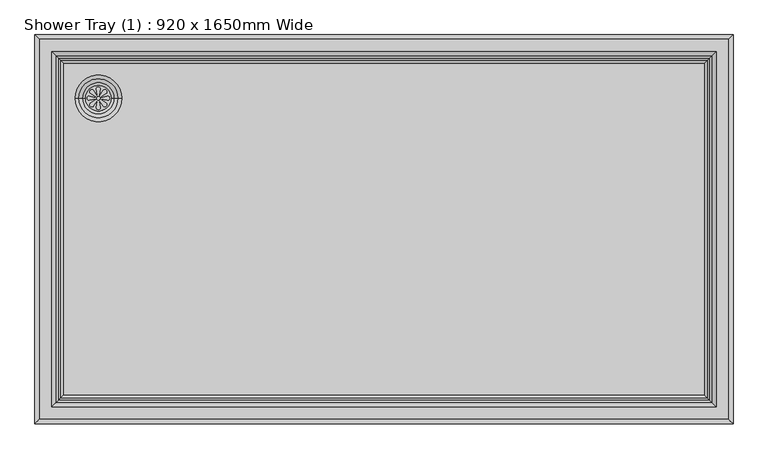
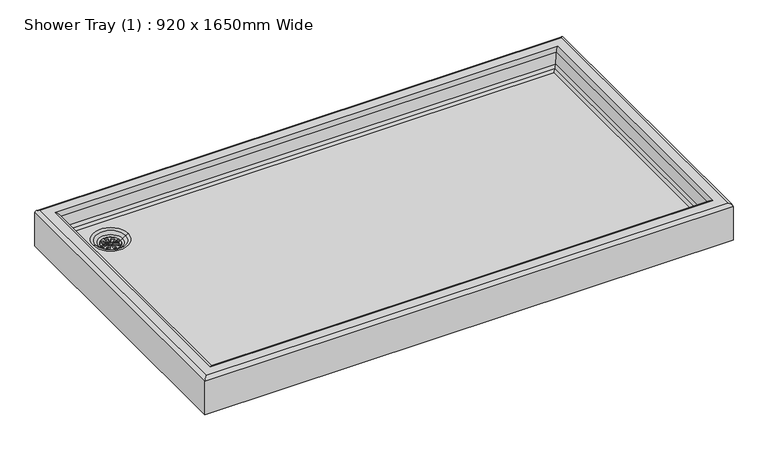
"""IFC4 building model written with IfcOpenShell, lengths in millimetres: flow terminal geometry, Shower Tray (1) : 920 x 1650mm Wide."""

from ifc_helpers import new_model, si_unit, point, frame, frame_2d, origin, place, context, project, spatial, polyline, circle_curve, ellipse_curve, trimmed, segment, composite_curve, outline, extrude, source, transform, mapped, element, save
from ifc_brep_helpers import plane_surface, cylinder_surface, revolved_surface, advanced_brep


def shower_tray_1_920_x_1650mm_wide_d7a5ca5a(model_context):
    return source(origin(), model_context, "Body", "SolidModel", [
        extrude(outline(composite_curve([segment(trimmed(circle_curve(frame_2d((-675.0, 310.0)), 30.0), [point((-705.0, 310.0))], [point((-645.0, 310.0))], False, "CARTESIAN"), True, "CONTINUOUS"), segment(trimmed(circle_curve(frame_2d((-675.0, 310.0)), 30.0), [point((-645.0, 310.0))], [point((-705.0, 310.0))], False, "CARTESIAN"), True, "CONTINUOUS")], self_intersect=False), holes=[composite_curve([segment(polyline([(-673.0437984, 317.2242832), (-670.0173347, 331.5301417)]), True, "CONTINUOUS"), segment(trimmed(circle_curve(frame_2d((-675.0, 331.5301417)), 4.9826653), [point((-670.0173347, 331.5301417))], [point((-679.9826653, 331.5301417))], True, "CARTESIAN"), True, "CONTINUOUS"), segment(polyline([(-679.9826653, 331.5301417), (-677.1435586, 317.2242832)]), True, "CONTINUOUS"), segment(trimmed(circle_curve(frame_2d((-675.0936785, 317.2242832)), 2.0498801), [point((-677.1435586, 317.2242832))], [point((-673.0437984, 317.2242832))], True, "CARTESIAN"), True, "CONTINUOUS")], self_intersect=False), composite_curve([segment(trimmed(circle_curve(frame_2d((-675.0936785, 302.7757168)), 2.0498801), [point((-673.0437984, 302.7757168))], [point((-677.1435586, 302.7757168))], True, "CARTESIAN"), True, "CONTINUOUS"), segment(polyline([(-677.1435586, 302.7757168), (-679.9826653, 288.4698583)]), True, "CONTINUOUS"), segment(trimmed(circle_curve(frame_2d((-675.0, 288.4698583)), 4.9826653), [point((-679.9826653, 288.4698583))], [point((-670.0173347, 288.4698583))], True, "CARTESIAN"), True, "CONTINUOUS"), segment(polyline([(-670.0173347, 288.4698583), (-673.0437984, 302.7757168)]), True, "CONTINUOUS")], self_intersect=False), composite_curve([segment(polyline([(-682.2242832, 311.9562016), (-696.5301417, 314.9826653)]), True, "CONTINUOUS"), segment(trimmed(circle_curve(frame_2d((-696.5301417, 310.0)), 4.9826653), [point((-696.5301417, 314.9826653))], [point((-696.5301417, 305.0173347))], True, "CARTESIAN"), True, "CONTINUOUS"), segment(polyline([(-696.5301417, 305.0173347), (-682.2242832, 307.8564414)]), True, "CONTINUOUS"), segment(trimmed(circle_curve(frame_2d((-682.2242832, 309.9063215)), 2.0498801), [point((-682.2242832, 307.8564414))], [point((-682.2242832, 311.9562016))], True, "CARTESIAN"), True, "CONTINUOUS")], self_intersect=False), composite_curve([segment(trimmed(circle_curve(frame_2d((-667.7757168, 309.9063215)), 2.0498801), [point((-667.7757168, 311.9562016))], [point((-667.7757168, 307.8564414))], True, "CARTESIAN"), True, "CONTINUOUS"), segment(polyline([(-667.7757168, 307.8564414), (-653.4698583, 305.0173347)]), True, "CONTINUOUS"), segment(trimmed(circle_curve(frame_2d((-653.4698583, 310.0)), 4.9826653), [point((-653.4698583, 305.0173347))], [point((-653.4698583, 314.9826653))], True, "CARTESIAN"), True, "CONTINUOUS"), segment(polyline([(-653.4698583, 314.9826653), (-667.7757168, 311.9562016)]), True, "CONTINUOUS")], self_intersect=False), composite_curve([segment(polyline([(-678.7250963, 316.4915831), (-686.7008327, 328.7473856)]), True, "CONTINUOUS"), segment(trimmed(circle_curve(frame_2d((-690.2241092, 325.2241092)), 4.9826653), [point((-686.7008327, 328.7473856))], [point((-693.7473856, 321.7008327))], True, "CARTESIAN"), True, "CONTINUOUS"), segment(polyline([(-693.7473856, 321.7008327), (-681.6240645, 313.5926149)]), True, "CONTINUOUS"), segment(trimmed(circle_curve(frame_2d((-680.1745804, 315.042099)), 2.0498801), [point((-681.6240645, 313.5926149))], [point((-678.7250963, 316.4915831))], True, "CARTESIAN"), True, "CONTINUOUS")], self_intersect=False), composite_curve([segment(trimmed(circle_curve(frame_2d((-669.957901, 304.8254196)), 2.0498801), [point((-668.5084169, 306.2749037))], [point((-671.4073851, 303.3759355))], True, "CARTESIAN"), True, "CONTINUOUS"), segment(polyline([(-671.4073851, 303.3759355), (-663.2991673, 291.2526144)]), True, "CONTINUOUS"), segment(trimmed(circle_curve(frame_2d((-659.7758908, 294.7758908)), 4.9826653), [point((-663.2991673, 291.2526144))], [point((-656.2526144, 298.2991673))], True, "CARTESIAN"), True, "CONTINUOUS"), segment(polyline([(-656.2526144, 298.2991673), (-668.5084169, 306.2749037)]), True, "CONTINUOUS")], self_intersect=False), composite_curve([segment(polyline([(-681.4915831, 306.2749037), (-693.7473856, 298.2991673)]), True, "CONTINUOUS"), segment(trimmed(circle_curve(frame_2d((-690.2241092, 294.7758908)), 4.9826653), [point((-693.7473856, 298.2991673))], [point((-686.7008327, 291.2526144))], True, "CARTESIAN"), True, "CONTINUOUS"), segment(polyline([(-686.7008327, 291.2526144), (-678.5926149, 303.3759355)]), True, "CONTINUOUS"), segment(trimmed(circle_curve(frame_2d((-680.042099, 304.8254196)), 2.0498801), [point((-678.5926149, 303.3759355))], [point((-681.4915831, 306.2749037))], True, "CARTESIAN"), True, "CONTINUOUS")], self_intersect=False), composite_curve([segment(trimmed(circle_curve(frame_2d((-669.8254196, 315.042099)), 2.0498801), [point((-671.2749037, 316.4915831))], [point((-668.3759355, 313.5926149))], True, "CARTESIAN"), True, "CONTINUOUS"), segment(polyline([(-668.3759355, 313.5926149), (-656.2526144, 321.7008327)]), True, "CONTINUOUS"), segment(trimmed(circle_curve(frame_2d((-659.7758908, 325.2241092)), 4.9826653), [point((-656.2526144, 321.7008327))], [point((-663.2991673, 328.7473856))], True, "CARTESIAN"), True, "CONTINUOUS"), segment(polyline([(-663.2991673, 328.7473856), (-671.2749037, 316.4915831)]), True, "CONTINUOUS")], self_intersect=False)]), frame((0.0, 0.0, 43.429774), z_axis=(0.0, 0.0, 1.0), x_axis=(1.0, 0.0, 0.0)), (0.0, 0.0, 1.0), 3.0),
        advanced_brep(
        [(825.0, 460.0, 0.0), (825.0, 460.0, 110.0), (825.0, -460.0, 110.0), (825.0, -460.0, 0.0), (763.5950747, 398.5950747, 66.1486916), (757.446383, 392.446383, 60.0), (757.446383, -392.446383, 60.0), (763.5950747, -398.5950747, 66.1486916), (769.1490941, -404.1490941, 76.8178637), (769.1490941, 404.1490941, 76.8178637), (775.0, -410.0, 110.0), (775.0, 410.0, 110.0), (785.0, -420.0, 120.0), (785.0, 420.0, 120.0), (815.0, 450.0, 120.0), (815.0, -450.0, 120.0), (-825.0, -460.0, 110.0), (-825.0, -460.0, 0.0), (-757.446383, -392.446383, 60.0), (-763.5950747, -398.5950747, 66.1486916), (-769.1490941, -404.1490941, 76.8178637), (-775.0, -410.0, 110.0), (-785.0, -420.0, 120.0), (-815.0, -450.0, 120.0), (-825.0, 460.0, 110.0), (-825.0, 460.0, 0.0), (-757.446383, 392.446383, 60.0), (-763.5950747, 398.5950747, 66.1486916), (-769.1490941, 404.1490941, 76.8178637), (-775.0, 410.0, 110.0), (-785.0, 420.0, 120.0), (-815.0, 450.0, 120.0), (-705.0, 310.0, 0.0), (-645.0, 310.0, 0.0), (-730.0, 310.0, 60.0), (-620.0, 310.0, 60.0), (-645.0, 310.0, 46.429774), (-705.0, 310.0, 46.429774), (-638.3333333, 310.0, 50.0), (-711.6666667, 310.0, 50.0), (-629.0, 310.0, 57.0), (-721.0, 310.0, 57.0)],
        [
            (0, 1),
            (1, 2),
            (2, 3),
            (3, 0),
            (4, 5),
            (5, 6),
            (6, 7),
            (7, 4),
            (7, 8, ellipse_curve(frame((749.452939, -384.452939, 80.2908273), z_axis=(-0.7071067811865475, -0.7071067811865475, 0.0), x_axis=(0.7071067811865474, -0.7071067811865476, 0.0)), 28.2842712, 20.0)),
            (8, 9),
            (9, 4, ellipse_curve(frame((749.452939, 384.452939, 80.2908273), z_axis=(-0.7071067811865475, 0.7071067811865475, 0.0), x_axis=(-0.7071067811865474, -0.7071067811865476, 0.0)), 28.2842712, 20.0)),
            (8, 10),
            (10, 11),
            (11, 9),
            (10, 12, ellipse_curve(frame((785.0, -420.0, 110.0), z_axis=(0.7071067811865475, 0.7071067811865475, 0.0), x_axis=(-0.7071067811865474, 0.7071067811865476, 0.0)), 14.1421356, 10.0)),
            (12, 13),
            (13, 11, ellipse_curve(frame((785.0, 420.0, 110.0), z_axis=(0.7071067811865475, -0.7071067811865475, 0.0), x_axis=(0.7071067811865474, 0.7071067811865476, 0.0)), 14.1421356, 10.0)),
            (1, 14, ellipse_curve(frame((815.0, 450.0, 110.0), z_axis=(0.7071067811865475, -0.7071067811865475, 0.0), x_axis=(0.7071067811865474, 0.7071067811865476, 0.0)), 14.1421356, 10.0)),
            (14, 15),
            (15, 2, ellipse_curve(frame((815.0, -450.0, 110.0), z_axis=(0.7071067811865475, 0.7071067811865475, 0.0), x_axis=(-0.7071067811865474, 0.7071067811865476, 0.0)), 14.1421356, 10.0)),
            (2, 16),
            (16, 17),
            (17, 3),
            (6, 18),
            (18, 19),
            (19, 7),
            (19, 20, ellipse_curve(frame((-749.452939, -384.452939, 80.2908273), z_axis=(-0.7071067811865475, 0.7071067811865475, 0.0), x_axis=(-0.7071067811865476, -0.7071067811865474, 0.0)), 28.2842712, 20.0)),
            (20, 8),
            (20, 21),
            (21, 10),
            (21, 22, ellipse_curve(frame((-785.0, -420.0, 110.0), z_axis=(0.7071067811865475, -0.7071067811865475, 0.0), x_axis=(0.7071067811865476, 0.7071067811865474, 0.0)), 14.1421356, 10.0)),
            (22, 12),
            (15, 23),
            (23, 16, ellipse_curve(frame((-815.0, -450.0, 110.0), z_axis=(0.7071067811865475, -0.7071067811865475, 0.0), x_axis=(0.7071067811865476, 0.7071067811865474, 0.0)), 14.1421356, 10.0)),
            (16, 24),
            (24, 25),
            (25, 17),
            (18, 26),
            (26, 27),
            (27, 19),
            (27, 28, ellipse_curve(frame((-749.452939, 384.452939, 80.2908273), z_axis=(0.7071067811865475, 0.7071067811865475, 0.0), x_axis=(-0.7071067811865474, 0.7071067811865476, 0.0)), 28.2842712, 20.0)),
            (28, 20),
            (28, 29),
            (29, 21),
            (29, 30, ellipse_curve(frame((-785.0, 420.0, 110.0), z_axis=(-0.7071067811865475, -0.7071067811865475, 0.0), x_axis=(0.7071067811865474, -0.7071067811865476, 0.0)), 14.1421356, 10.0)),
            (30, 22),
            (23, 31),
            (31, 24, ellipse_curve(frame((-815.0, 450.0, 110.0), z_axis=(-0.7071067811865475, -0.7071067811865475, 0.0), x_axis=(0.7071067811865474, -0.7071067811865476, 0.0)), 14.1421356, 10.0)),
            (0, 25),
            (24, 1),
            (32, 33, circle_curve(frame((-675.0, 310.0, 0.0), z_axis=(0.0, 0.0, 1.0), x_axis=(1.0, 0.0, 0.0)), 30.0)),
            (33, 32, circle_curve(frame((-675.0, 310.0, 0.0), z_axis=(0.0, 0.0, 1.0), x_axis=(1.0, 0.0, 0.0)), 30.0)),
            (4, 27),
            (26, 5),
            (9, 28),
            (11, 29),
            (13, 30),
            (14, 31),
            (34, 35, circle_curve(frame((-675.0, 310.0, 60.0), z_axis=(0.0, 0.0, -1.0), x_axis=(1.0, 0.0, 0.0)), 55.0)),
            (35, 34, circle_curve(frame((-675.0, 310.0, 60.0), z_axis=(0.0, 0.0, -1.0), x_axis=(1.0, 0.0, 0.0)), 55.0)),
            (33, 36),
            (36, 37, circle_curve(frame((-675.0, 310.0, 46.429774), z_axis=(0.0, 0.0, 1.0), x_axis=(1.0, 0.0, 0.0)), 30.0)),
            (37, 32),
            (37, 36, circle_curve(frame((-675.0, 310.0, 46.429774), z_axis=(0.0, 0.0, 1.0), x_axis=(1.0, 0.0, 0.0)), 30.0)),
            (38, 39, circle_curve(frame((-675.0, 310.0, 50.0), z_axis=(0.0, 0.0, 1.0), x_axis=(1.0, 0.0, 0.0)), 36.6666667)),
            (39, 37, circle_curve(frame((-696.6666667, 310.0, 70.0), z_axis=(0.0, -1.0, 0.0), x_axis=(-1.0, 0.0, 0.0)), 25.0)),
            (36, 38, circle_curve(frame((-653.3333333, 310.0, 70.0), z_axis=(0.0, -1.0, 0.0), x_axis=(1.0, 0.0, 0.0)), 25.0)),
            (39, 38, circle_curve(frame((-675.0, 310.0, 50.0), z_axis=(0.0, 0.0, 1.0), x_axis=(1.0, 0.0, 0.0)), 36.6666667)),
            (38, 40),
            (40, 41, circle_curve(frame((-675.0, 310.0, 57.0), z_axis=(0.0, 0.0, 1.0), x_axis=(1.0, 0.0, 0.0)), 46.0)),
            (41, 39),
            (41, 40, circle_curve(frame((-675.0, 310.0, 57.0), z_axis=(0.0, 0.0, 1.0), x_axis=(1.0, 0.0, 0.0)), 46.0)),
            (40, 35, circle_curve(frame((-620.0, 310.0, 45.0), z_axis=(0.0, 1.0, 0.0), x_axis=(1.0, 0.0, 0.0)), 15.0)),
            (34, 41, circle_curve(frame((-730.0, 310.0, 45.0), z_axis=(0.0, 1.0, 0.0), x_axis=(-1.0, 0.0, 0.0)), 15.0)),
        ],
        [
            plane_surface(frame((825.0, 460.0, 110.0), z_axis=(1.0, 0.0, 0.0), x_axis=(0.0, -1.0, 0.0))),
            plane_surface(frame((757.446383, 392.446383, 60.0), z_axis=(-0.7071067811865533, 0.0, 0.7071067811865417), x_axis=(0.0, -1.0, 0.0))),
            revolved_surface(polyline([(769.452939, -404.45293896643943, 80.2908273), (769.452939, 404.4529389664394, 80.2908273)]), (749.452939, 460.0, 80.2908273), (0.0, -1.0, 0.0)),
            plane_surface(frame((769.1490941, 404.1490941, 76.8178637), z_axis=(-0.9848077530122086, 0.0, 0.17364817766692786), x_axis=(0.0, -1.0, 0.0))),
            cylinder_surface(frame((785.0, 460.0, 110.0), z_axis=(0.0, 1.0, 0.0), x_axis=(1.0, 0.0, 0.0)), 10.0),
            cylinder_surface(frame((815.0, 460.0, 110.0), z_axis=(0.0, 1.0, 0.0), x_axis=(1.0, 0.0, 0.0)), 10.0),
            plane_surface(frame((825.0, -460.0, 110.0), z_axis=(0.0, -1.0, 0.0), x_axis=(-1.0, 0.0, 0.0))),
            plane_surface(frame((757.446383, -392.446383, 60.0), z_axis=(0.0, 0.7071067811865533, 0.7071067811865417), x_axis=(-1.0, 0.0, 0.0))),
            revolved_surface(polyline([(-769.4529389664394, -404.452939, 80.2908273), (769.4529389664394, -404.452939, 80.2908273)]), (825.0, -384.452939, 80.2908273), (-1.0, 0.0, 0.0)),
            plane_surface(frame((769.1490941, -404.1490941, 76.8178637), z_axis=(0.0, 0.9848077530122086, 0.17364817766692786), x_axis=(-1.0, 0.0, 0.0))),
            cylinder_surface(frame((825.0, -420.0, 110.0), z_axis=(1.0, 0.0, 0.0), x_axis=(0.0, -1.0, 0.0)), 10.0),
            cylinder_surface(frame((825.0, -450.0, 110.0), z_axis=(1.0, 0.0, 0.0), x_axis=(0.0, -1.0, 0.0)), 10.0),
            plane_surface(frame((-825.0, -460.0, 110.0), z_axis=(-1.0, 0.0, 0.0), x_axis=(0.0, 1.0, 0.0))),
            plane_surface(frame((-757.446383, -392.446383, 60.0), z_axis=(0.7071067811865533, 0.0, 0.7071067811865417), x_axis=(0.0, 1.0, 0.0))),
            revolved_surface(polyline([(-769.452939, 404.45293896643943, 80.2908273), (-769.452939, -404.4529389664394, 80.2908273)]), (-749.452939, -460.0, 80.2908273), (0.0, 1.0, 0.0)),
            plane_surface(frame((-769.1490941, -404.1490941, 76.8178637), z_axis=(0.9848077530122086, 0.0, 0.17364817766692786), x_axis=(0.0, 1.0, 0.0))),
            cylinder_surface(frame((-785.0, -460.0, 110.0), z_axis=(0.0, -1.0, 0.0), x_axis=(-1.0, 0.0, 0.0)), 10.0),
            cylinder_surface(frame((-815.0, -460.0, 110.0), z_axis=(0.0, -1.0, 0.0), x_axis=(-1.0, 0.0, 0.0)), 10.0),
            plane_surface(frame((-825.0, 460.0, 110.0), z_axis=(0.0, 1.0, 0.0), x_axis=(1.0, 0.0, 0.0))),
            plane_surface(frame((-825.0, 460.0, 0.0), z_axis=(0.0, 0.0, -1.0), x_axis=(1.0, 0.0, 0.0))),
            plane_surface(frame((-757.446383, 392.446383, 60.0), z_axis=(0.0, -0.7071067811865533, 0.7071067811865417), x_axis=(1.0, 0.0, 0.0))),
            revolved_surface(polyline([(769.4529389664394, 404.452939, 80.2908273), (-769.4529389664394, 404.452939, 80.2908273)]), (-825.0, 384.452939, 80.2908273), (1.0, 0.0, 0.0)),
            plane_surface(frame((-769.1490941, 404.1490941, 76.8178637), z_axis=(0.0, -0.9848077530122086, 0.17364817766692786), x_axis=(1.0, 0.0, 0.0))),
            cylinder_surface(frame((-825.0, 420.0, 110.0), z_axis=(-1.0, 0.0, 0.0), x_axis=(0.0, 1.0, 0.0)), 10.0),
            plane_surface(frame((-785.0, 420.0, 120.0), z_axis=(0.0, 0.0, 1.0), x_axis=(1.0, 0.0, 0.0))),
            cylinder_surface(frame((-825.0, 450.0, 110.0), z_axis=(-1.0, 0.0, 0.0), x_axis=(0.0, 1.0, 0.0)), 10.0),
            plane_surface(frame((-645.0, 310.0, 60.0), z_axis=(0.0, 0.0, 1.0), x_axis=(0.0, -1.0, 0.0))),
            revolved_surface(polyline([(-645.0, 310.0, 0.0), (-645.0, 310.0, 46.429774)]), (-675.0, 310.0, 0.0), (0.0, 0.0, -1.0)),
            revolved_surface(trimmed(ellipse_curve(frame((-653.3333333, 310.0, 70.0), z_axis=(0.0, 1.0, 0.0), x_axis=(1.0, 0.0, 0.0)), 25.0, 25.0), [point((-638.3333333, 310.0, 50.0))], [point((-653.3333333, 310.0, 45.0))], True, "CARTESIAN"), (-675.0, 310.0, -508.0), (0.0, 0.0, 1.0)),
            revolved_surface(polyline([(-629.0, 310.0, 57.0), (-638.3333333, 310.0, 50.0)]), (-675.0, 310.0, -508.0), (0.0, 0.0, 1.0)),
            revolved_surface(trimmed(ellipse_curve(frame((-620.0, 310.0, 45.0), z_axis=(0.0, -1.0, 0.0), x_axis=(1.0, 0.0, 0.0)), 15.0, 15.0), [point((-620.0, 310.0, 60.0))], [point((-629.0, 310.0, 57.0))], True, "CARTESIAN"), (-675.0, 310.0, -508.0), (0.0, 0.0, 1.0)),
        ],
        [
            (0, [[1, 2, 3, 4]]),
            (1, [[5, 6, 7, 8]]),
            (2, [[-8, 9, 10, 11]]),
            (3, [[-10, 12, 13, 14]]),
            (4, [[-13, 15, 16, 17]]),
            (5, [[-2, 18, 19, 20]]),
            (6, [[-3, 21, 22, 23]]),
            (7, [[-7, 24, 25, 26]]),
            (8, [[-9, -26, 27, 28]]),
            (9, [[-12, -28, 29, 30]]),
            (10, [[-15, -30, 31, 32]]),
            (11, [[-20, 33, 34, -21]]),
            (12, [[-22, 35, 36, 37]]),
            (13, [[-25, 38, 39, 40]]),
            (14, [[-27, -40, 41, 42]]),
            (15, [[-29, -42, 43, 44]]),
            (16, [[-31, -44, 45, 46]]),
            (17, [[-34, 47, 48, -35]]),
            (18, [[-1, 49, -36, 50]]),
            (19, [[-4, -23, -37, -49], [51, 52]]),
            (20, [[-5, 53, -39, 54]]),
            (21, [[-11, 55, -41, -53]]),
            (22, [[-14, 56, -43, -55]]),
            (23, [[-17, 57, -45, -56]]),
            (24, [[-19, 58, -47, -33], [-16, -32, -46, -57]]),
            (25, [[-18, -50, -48, -58]]),
            (26, [[-6, -54, -38, -24], [59, 60]]),
            (27, [[-52, 61, 62, 63]]),
            (27, [[-51, -63, 64, -61]]),
            (28, [[65, 66, -62, 67]]),
            (28, [[68, -67, -64, -66]]),
            (29, [[-65, 69, 70, 71]]),
            (29, [[-68, -71, 72, -69]]),
            (30, [[-70, 73, -59, 74]]),
            (30, [[-72, -74, -60, -73]]),
        ],
    ),
        extrude(outline(composite_curve([segment(trimmed(circle_curve(frame_2d((-675.0, 310.0)), 30.0), [point((-705.0, 310.0))], [point((-645.0, 310.0))], False, "CARTESIAN"), True, "CONTINUOUS"), segment(trimmed(circle_curve(frame_2d((-675.0, 310.0)), 30.0), [point((-645.0, 310.0))], [point((-705.0, 310.0))], False, "CARTESIAN"), True, "CONTINUOUS")], self_intersect=False)), frame((0.0, 0.0, -4.6336899), z_axis=(0.0, 0.0, 1.0), x_axis=(1.0, 0.0, 0.0)), (0.0, 0.0, 1.0), 15.8627685),
    ])


if __name__ == "__main__":
    model = new_model("IFC4")
    model_context = context("Model", 3, world=origin())
    ifc_project = project(units=[si_unit("LENGTHUNIT", "METRE", prefix="MILLI")], contexts=[model_context])
    site = spatial("IfcSite", under=ifc_project)
    building = spatial("IfcBuilding", under=site)
    placement = place(None, origin())
    shower_tray_1_920_x_1650mm_wide_shape = shower_tray_1_920_x_1650mm_wide_d7a5ca5a(model_context)
    element("IfcFlowTerminal", 1, ObjectType="Shower Tray (1) : 920 x 1650mm Wide", at=placement, inside=building, context=model_context, shape_type="MappedRepresentation", body=[
        mapped(shower_tray_1_920_x_1650mm_wide_shape, transform((0.0, 0.0, 0.0), x_axis=(1.0, 0.0, 0.0), y_axis=(0.0, 1.0, 0.0), z_axis=(0.0, 0.0, 1.0))),
    ])
    save(model, "model.ifc")
